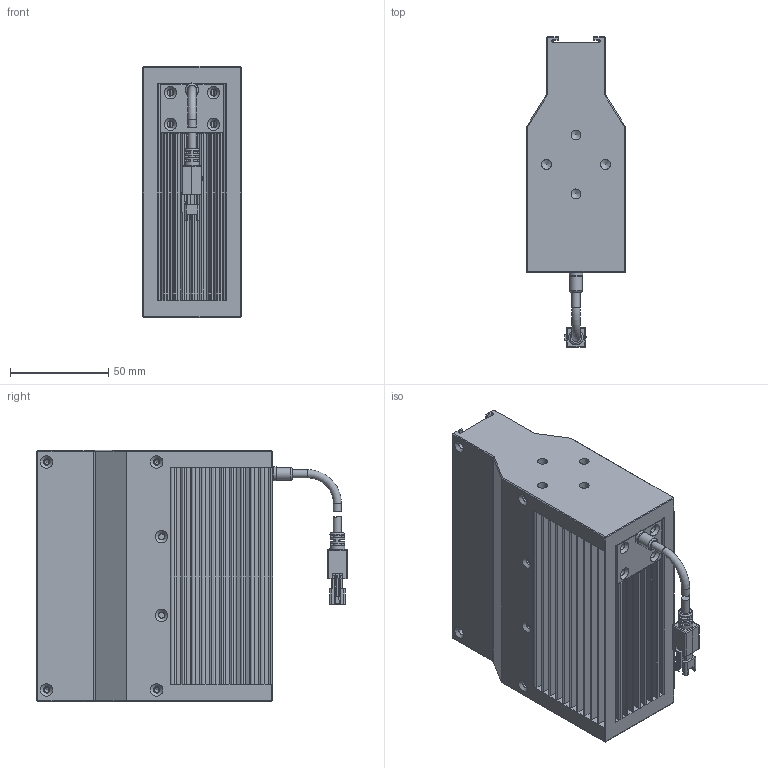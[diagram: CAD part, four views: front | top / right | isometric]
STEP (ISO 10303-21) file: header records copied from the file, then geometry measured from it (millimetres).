
FILE_DESCRIPTION (( 'STEP AP203' ), '1' );
FILE_NAME ('OPT-LSNL128-R-V1.0尨砩芞.STEP', '2025-02-17T08:42:52', ( '' ), ( '' ), 'SwSTEP 2.0', 'SolidWorks 2016', '' );
FILE_SCHEMA (( 'CONFIG_CONTROL_DESIGN' ));
Length unit declared in the file: millimetre
Products named in the file (1): OPT-LSNL128-R-V1.0尨砩芞
Bounding box: 50.02 x 158 x 128 mm (x, y, z)
Volume: 479409.2 mm3; surface area: 156811.1 mm2
Topology: 8 solids, 13 shells, 981 faces, 2699 edges, 1733 vertices
Faces by surface type: plane 588, cylinder 322, cone 42, bspline 21, torus 8
Full cylindrical faces by diameter (mm): 1.1 x2, 1.4 x2, 2.5 x8, 3 x8, 3.4 x16, 3.5 x1, 4.1 x4, 5 x8, 5.8 x1, 6.5 x1, 7 x1, 7.5 x1
Entity records: 33212 total; most frequent: CARTESIAN_POINT 9288, ORIENTED_EDGE 5088, DIRECTION 4644, EDGE_CURVE 2544, VERTEX_POINT 1684, LINE 1648, VECTOR 1648, AXIS2_PLACEMENT_3D 1498
